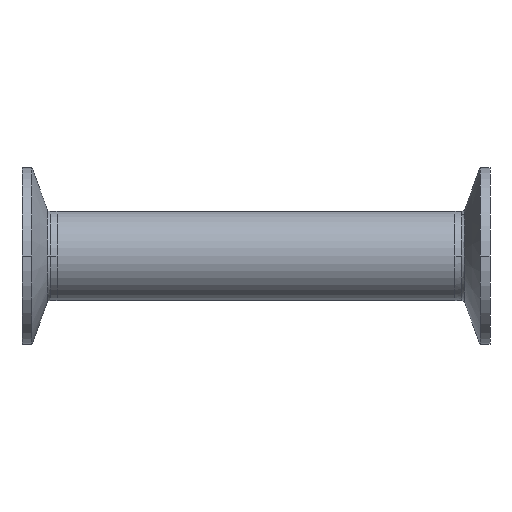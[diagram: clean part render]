
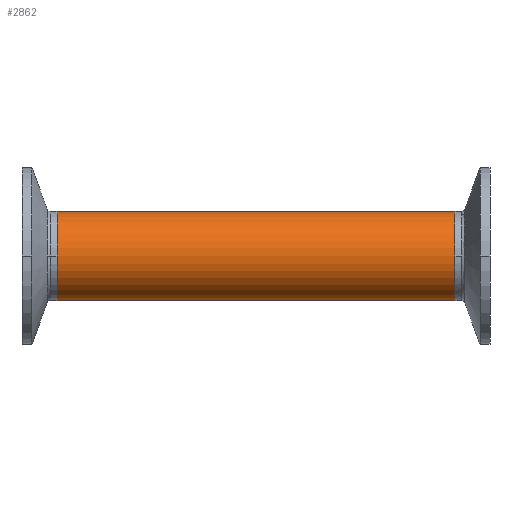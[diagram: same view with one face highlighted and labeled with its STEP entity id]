
A CAD part, front view. The second image highlights one B-rep face of the part: STEP entity #2862.
In plain terms, the highlighted cylindrical face has radius 12.7 mm (diameter 25.4 mm), a partial arc.
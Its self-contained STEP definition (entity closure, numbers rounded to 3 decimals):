
#4 = VECTOR ( 'NONE', #2563, 1000. ) ;
#25 = AXIS2_PLACEMENT_3D ( 'NONE', #1743, #1640, #1292 ) ;
#114 = EDGE_CURVE ( 'NONE', #3760, #3383, #1304, .T. ) ;
#218 = EDGE_CURVE ( 'NONE', #3383, #1868, #845, .T. ) ;
#625 = DIRECTION ( 'NONE',  ( -1., 0., 0. ) ) ;
#697 = EDGE_CURVE ( 'NONE', #1868, #3194, #3605, .T. ) ;
#834 = ORIENTED_EDGE ( 'NONE', *, *, #114, .T. ) ;
#845 = LINE ( 'NONE', #1134, #4 ) ;
#982 = DIRECTION ( 'NONE',  ( -1., 0., 0. ) ) ;
#1134 = CARTESIAN_POINT ( 'NONE',  ( 92.621, 0., 12.7 ) ) ;
#1149 = CARTESIAN_POINT ( 'NONE',  ( 56.7, 0., 0. ) ) ;
#1196 = DIRECTION ( 'NONE',  ( -1., 0., 0. ) ) ;
#1232 = CARTESIAN_POINT ( 'NONE',  ( 92.621, 0., -12.7 ) ) ;
#1292 = DIRECTION ( 'NONE',  ( 0., 0., 1. ) ) ;
#1304 = CIRCLE ( 'NONE', #3596, 12.7 ) ;
#1319 = DIRECTION ( 'NONE',  ( 0., 0., 1. ) ) ;
#1330 = EDGE_CURVE ( 'NONE', #3760, #3194, #3228, .T. ) ;
#1588 = CARTESIAN_POINT ( 'NONE',  ( -56.7, 0., -12.7 ) ) ;
#1640 = DIRECTION ( 'NONE',  ( 1., 0., 0. ) ) ;
#1725 = VECTOR ( 'NONE', #625, 1000. ) ;
#1743 = CARTESIAN_POINT ( 'NONE',  ( -56.7, 0., 0. ) ) ;
#1760 = AXIS2_PLACEMENT_3D ( 'NONE', #3316, #982, #3603 ) ;
#1868 = VERTEX_POINT ( 'NONE', #3766 ) ;
#2203 = EDGE_LOOP ( 'NONE', ( #2466, #834, #2937, #2283 ) ) ;
#2283 = ORIENTED_EDGE ( 'NONE', *, *, #697, .T. ) ;
#2466 = ORIENTED_EDGE ( 'NONE', *, *, #1330, .F. ) ;
#2563 = DIRECTION ( 'NONE',  ( -1., 0., 0. ) ) ;
#2862 = ADVANCED_FACE ( 'NONE', ( #3559 ), #3475, .T. ) ;
#2865 = CARTESIAN_POINT ( 'NONE',  ( 56.7, 0., -12.7 ) ) ;
#2937 = ORIENTED_EDGE ( 'NONE', *, *, #218, .T. ) ;
#3194 = VERTEX_POINT ( 'NONE', #1588 ) ;
#3219 = CARTESIAN_POINT ( 'NONE',  ( 56.7, 0., 12.7 ) ) ;
#3228 = LINE ( 'NONE', #1232, #1725 ) ;
#3316 = CARTESIAN_POINT ( 'NONE',  ( 92.621, 0., 0. ) ) ;
#3383 = VERTEX_POINT ( 'NONE', #3219 ) ;
#3475 = CYLINDRICAL_SURFACE ( 'NONE', #1760, 12.7 ) ;
#3559 = FACE_OUTER_BOUND ( 'NONE', #2203, .T. ) ;
#3596 = AXIS2_PLACEMENT_3D ( 'NONE', #1149, #1196, #1319 ) ;
#3603 = DIRECTION ( 'NONE',  ( 0., 0., 1. ) ) ;
#3605 = CIRCLE ( 'NONE', #25, 12.7 ) ;
#3760 = VERTEX_POINT ( 'NONE', #2865 ) ;
#3766 = CARTESIAN_POINT ( 'NONE',  ( -56.7, 0., 12.7 ) ) ;
